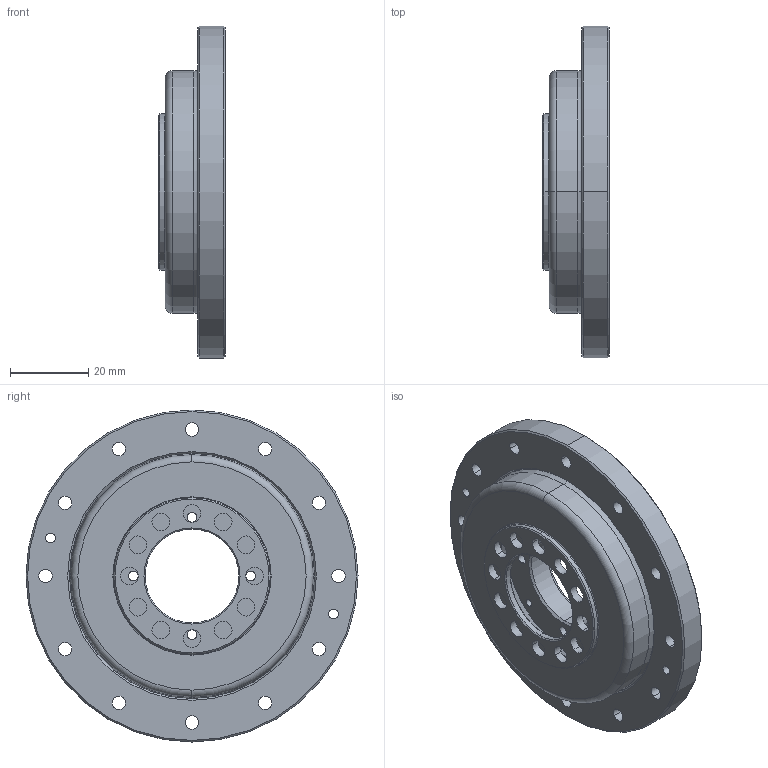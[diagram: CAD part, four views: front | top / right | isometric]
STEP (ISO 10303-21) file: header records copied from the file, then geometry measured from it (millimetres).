
FILE_DESCRIPTION (( 'STEP AP203' ), '1' );
FILE_NAME ('LCD-25-XXX-P-I.STEP', '2017-04-06T06:21:39', ( 'Windows 蚚誧' ), ( 'Users' ), 'SwSTEP 2.0', 'SolidWorks 2013', '' );
FILE_SCHEMA (( 'CONFIG_CONTROL_DESIGN' ));
Length unit declared in the file: millimetre
Products named in the file (9): DB-25-I; RZC-25内外圈+钢球; RZC-25悵厥殤; 柔性轴承RZC-25; ISO 7046-1 - M2.5 x 4 - Z --- 4C_ISO 7046-1 - M2.5 x 4 - Z --- 4C; LCD-25-XXX-P02; LCD-25-XXX-P01; LCD-25-XXX-P-I; LCD-25-XXX-P03
Assembly tree (11 placements, depth 3):
  LCD-25-XXX-P-I
    LCD-25-XXX-P03
    DB-25-I
    柔性轴承RZC-25
      RZC-25内外圈+钢球
      RZC-25悵厥殤
    ISO 7046-1 - M2.5 x 4 - Z --- 4C_ISO 7046-1 - M2.5 x 4 - Z --- 4C  x4
    LCD-25-XXX-P02
    LCD-25-XXX-P01
Bounding box: 17 x 85 x 85 mm (x, y, z)
Volume: 36445.6 mm3; surface area: 40573.7 mm2
Topology: 34 solids, 34 shells, 589 faces, 1481 edges, 931 vertices
Faces by surface type: cylinder 228, plane 169, cone 108, sphere 46, torus 38
Entity records: 14799 total; most frequent: DIRECTION 2741, CARTESIAN_POINT 2302, ORIENTED_EDGE 2164, AXIS2_PLACEMENT_3D 1191, EDGE_CURVE 1082, CIRCLE 710, VERTEX_POINT 700, EDGE_LOOP 586
